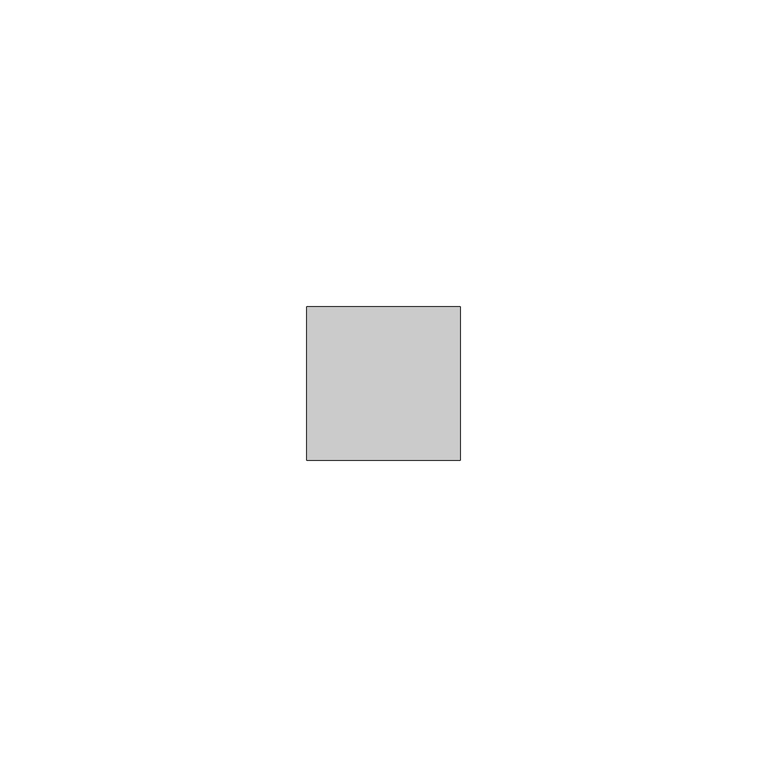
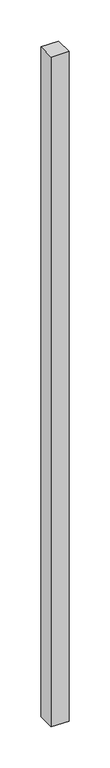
"""IFC4 building model written with IfcOpenShell, lengths in millimetres: member geometry, Obdélníková příčel : VERTI AERO."""

from ifc_helpers import new_model, si_unit, frame, origin, place, context, project, spatial, polyline, outline, extrude, source, transform, mapped, element, save


def member_207785f2(model_context):
    return source(origin(), model_context, "Body", "SweptSolid", [
        extrude(outline(polyline([(-25.0, 12.5), (0.0, 12.5), (0.0, -12.5), (-25.0, -12.5), (-25.0, 12.5)])), frame((0.0, 0.0, -995.0), z_axis=(0.0, 0.0, 1.0), x_axis=(1.0, 0.0, 0.0)), (0.0, 0.0, 1.0), 995.0),
    ])


if __name__ == "__main__":
    model = new_model("IFC4")
    model_context = context("Model", 3, world=origin())
    ifc_project = project(units=[si_unit("LENGTHUNIT", "METRE", prefix="MILLI")], contexts=[model_context])
    site = spatial("IfcSite", under=ifc_project)
    building = spatial("IfcBuilding", under=site)
    placement = place(None, origin())
    member_shape = member_207785f2(model_context)
    element("IfcMember", 1, ObjectType="Obdélníková příčel : VERTI AERO", at=placement, inside=building, context=model_context, shape_type="MappedRepresentation", body=[
        mapped(member_shape, transform((0.0, 0.0, 0.0), x_axis=(1.0, 0.0, 0.0), y_axis=(0.0, 1.0, 0.0), z_axis=(0.0, 0.0, 1.0))),
    ])
    save(model, "model.ifc")
